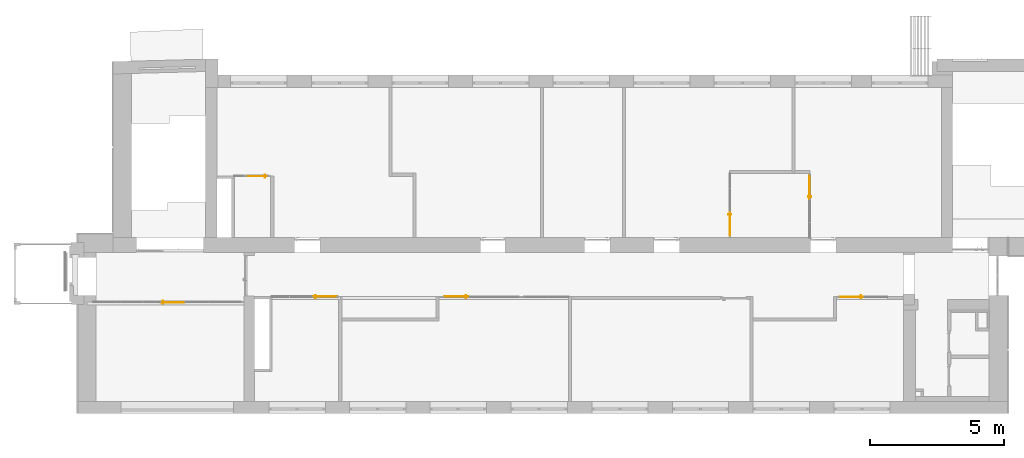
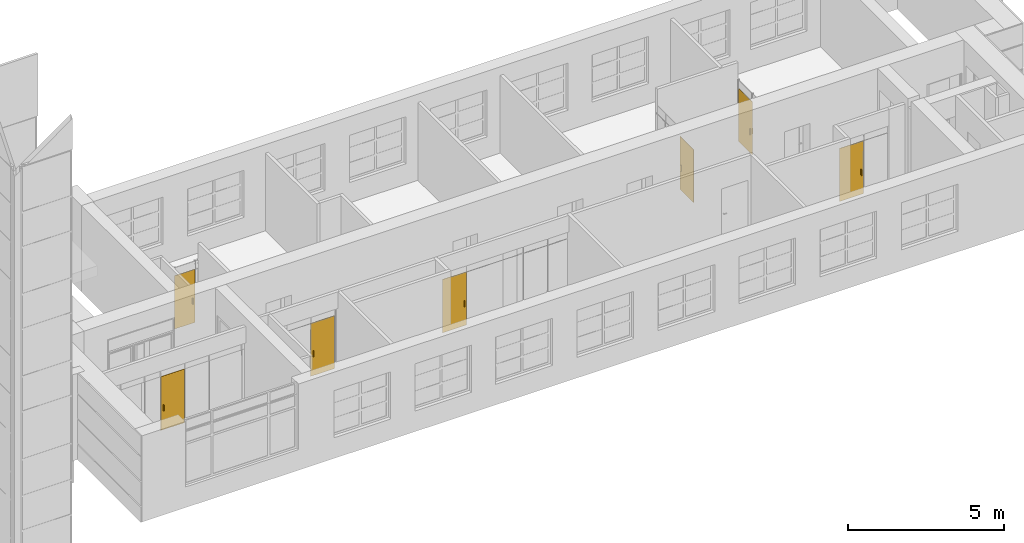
# One storey, part 65 of 66: 7 doors, 7 elements without a shape of their own.
"""IFC2X3 building model written with IfcOpenShell, lengths in millimetres."""

import ifcopenshell
import ifcopenshell.guid

model = None  # the IFC model being written
_history = None  # IfcOwnerHistory: only IFC2X3 demands one
_inside = {}  # id of a spatial element -> (the spatial element, [elements in it])
_under = {}  # id of a project, library or spatial element -> (it, [spatial elements below it])
_declared = {}  # id of a project -> (the project, [libraries it declares])
_typed = {}  # id of a type object -> (the type object, [elements of that type])
_made_of = {}  # id of a material, layer set ... -> (it, [elements and type objects made of it])


def new_model(schema):
    """Start an empty IFC model of exactly this schema.

    Asked for "IFC4X3", IfcOpenShell would pick the latest addendum, in which some entities
    have other attributes; the version numbers below select the first issue.
    IFC2X3 requires an IfcOwnerHistory on every rooted entity: one is made here for all.
    """
    global model, _history
    if schema == "IFC4X3":
        model = ifcopenshell.file(schema_version=(4, 3, 0, 0))
    else:
        model = ifcopenshell.file(schema=schema)
    _inside.clear()
    _under.clear()
    _declared.clear()
    _typed.clear()
    _made_of.clear()
    _history = None
    if model.schema == "IFC2X3":
        org = make("IfcOrganization", Name="unknown")
        user = make(
            "IfcPersonAndOrganization",
            ThePerson=make("IfcPerson", FamilyName="unknown"),
            TheOrganization=org,
        )
        app = make(
            "IfcApplication",
            ApplicationDeveloper=org,
            Version="unknown",
            ApplicationFullName="unknown",
            ApplicationIdentifier="unknown",
        )
        _history = make(
            "IfcOwnerHistory",
            OwningUser=user,
            OwningApplication=app,
            ChangeAction="ADDED",
            CreationDate=0,
        )
    return model


def make(cls, **values):
    """One entity of the class cls with the attributes given. An attribute that is None is left unset."""
    return model.create_entity(
        cls, **{name: value for name, value in values.items() if value is not None}
    )


def entity(cls, *values):
    """Any entity or typed value of the class cls, its attributes in the order of the schema. None: left unset."""
    e = model.create_entity(cls)
    for i, value in enumerate(values):
        if value is not None:
            e[i] = value
    return e


def rooted(cls, **values):
    """An entity with a GlobalId (a new one), such as an element, a storey or a relation."""
    return make(cls, GlobalId=ifcopenshell.guid.new(), OwnerHistory=_history, **values)


def si_unit(unit_type, name, prefix=None):
    """IfcSIUnit, for example si_unit("LENGTHUNIT", "METRE", prefix="MILLI")."""
    return make("IfcSIUnit", UnitType=unit_type, Prefix=prefix, Name=name)


def converted_unit(unit_type, name, factor, base, dimensions=None, offset=None):
    """IfcConversionBasedUnit, such as the inch: factor (a typed value) times the base unit."""
    return make(
        "IfcConversionBasedUnit"
        if offset is None
        else "IfcConversionBasedUnitWithOffset",
        ConversionOffset=offset,
        Dimensions=None
        if dimensions is None
        else entity("IfcDimensionalExponents", *dimensions),
        UnitType=unit_type,
        Name=name,
        ConversionFactor=make(
            "IfcMeasureWithUnit", ValueComponent=factor, UnitComponent=base
        ),
    )


def derived_unit(unit_type, elements):
    """IfcDerivedUnit: a product of units, each with its exponent."""
    return make(
        "IfcDerivedUnit",
        Elements=[
            make("IfcDerivedUnitElement", Unit=unit, Exponent=power)
            for unit, power in elements
        ],
        UnitType=unit_type,
    )


def assignment(units):
    """IfcUnitAssignment: the units of a project."""
    return None if units is None else make("IfcUnitAssignment", Units=units)


def point(xyz):
    """IfcCartesianPoint."""
    return None if xyz is None else make("IfcCartesianPoint", Coordinates=xyz)


def direction(xyz):
    """IfcDirection."""
    return None if xyz is None else make("IfcDirection", DirectionRatios=xyz)


def frame(location, z_axis=None, x_axis=None):
    """IfcAxis2Placement3D, a coordinate frame: its origin and axes. An axis left out is left unset."""
    return make(
        "IfcAxis2Placement3D",
        Location=point(location),
        Axis=direction(z_axis),
        RefDirection=direction(x_axis),
    )


def frame_2d(location, x_axis=None):
    """IfcAxis2Placement2D, a coordinate frame in the plane: its origin and x axis."""
    return make(
        "IfcAxis2Placement2D", Location=point(location), RefDirection=direction(x_axis)
    )


def origin():
    """The frame at (0, 0, 0) with its axes left unset."""
    return frame((0.0, 0.0, 0.0))


def origin_2d_with_axis():
    """The frame at (0, 0) in the plane with the x axis (1, 0) written out."""
    return frame_2d((0.0, 0.0), x_axis=(1.0, 0.0))


def place(relative_to, where):
    """IfcLocalPlacement: puts the frame where relative to a parent placement (None: the world)."""
    return make(
        "IfcLocalPlacement", PlacementRelTo=relative_to, RelativePlacement=where
    )


def context(
    kind, dimensions, precision=None, world=None, true_north=None, identifier=None
):
    """IfcGeometricRepresentationContext, for example the 3D "Model" context."""
    return make(
        "IfcGeometricRepresentationContext",
        ContextIdentifier=identifier,
        ContextType=kind,
        CoordinateSpaceDimension=dimensions,
        Precision=precision,
        WorldCoordinateSystem=world,
        TrueNorth=true_north,
    )


def subcontext(parent, identifier, kind, view, scale=None):
    """IfcGeometricRepresentationSubContext, for example "Body" below "Model"."""
    return make(
        "IfcGeometricRepresentationSubContext",
        ContextIdentifier=identifier,
        ContextType=kind,
        ParentContext=parent,
        TargetScale=scale,
        TargetView=view,
    )


def project(units=None, contexts=None):
    """IfcProject with its units and contexts."""
    return rooted(
        "IfcProject",
        Name="project",
        RepresentationContexts=contexts,
        UnitsInContext=assignment(units),
    )


def spatial(cls, under=None, at=None, **own):
    """A site, building, storey or space (cls), placed at a placement, below another one or the project."""
    s = rooted(cls, ObjectPlacement=at, **own)
    if under is not None:
        _under.setdefault(under.id(), (under, []))[1].append(s)
    return s


def profile(cls, at=None, kind="AREA", **sizes):
    """A parametric profile (cls). Its sizes go by their IFC names, for example OverallWidth=200.0."""
    return make(cls, ProfileType=kind, Position=at, **sizes)


def rectangle(**sizes):
    """IfcRectangleProfileDef."""
    return profile("IfcRectangleProfileDef", **sizes)


def extrude(swept, where, along, depth):
    """IfcExtrudedAreaSolid: the profile swept, set in the frame where, extruded along a direction by depth."""
    return make(
        "IfcExtrudedAreaSolid",
        SweptArea=swept,
        Position=where,
        ExtrudedDirection=direction(along),
        Depth=depth,
    )


def shape(context_of_items, identifier, shape_type, items):
    """IfcShapeRepresentation: the items that make up one representation, for example the "Body"."""
    return make(
        "IfcShapeRepresentation",
        ContextOfItems=context_of_items,
        RepresentationIdentifier=identifier,
        RepresentationType=shape_type,
        Items=items,
    )


def source(mapping_origin, context_of_items, identifier, shape_type, items):
    """IfcRepresentationMap: a shape defined once, which mapped items show again and again."""
    return make(
        "IfcRepresentationMap",
        MappingOrigin=mapping_origin,
        MappedRepresentation=shape(context_of_items, identifier, shape_type, items),
    )


def transform(
    local_origin,
    x_axis=None,
    y_axis=None,
    z_axis=None,
    scale=None,
    scale2=None,
    scale3=None,
    uniform=True,
):
    """IfcCartesianTransformationOperator3D, or its non-uniform kind. x_axis, y_axis, z_axis: its Axis1, 2, 3."""
    if uniform:
        return make(
            "IfcCartesianTransformationOperator3D",
            Axis1=direction(x_axis),
            Axis2=direction(y_axis),
            LocalOrigin=point(local_origin),
            Scale=scale,
            Axis3=direction(z_axis),
        )
    return make(
        "IfcCartesianTransformationOperator3DnonUniform",
        Axis1=direction(x_axis),
        Axis2=direction(y_axis),
        LocalOrigin=point(local_origin),
        Scale=scale,
        Axis3=direction(z_axis),
        Scale2=scale2,
        Scale3=scale3,
    )


def mapped(mapping_source, mapping_target):
    """IfcMappedItem: shows the shape of a source again, moved by a transform."""
    return make(
        "IfcMappedItem", MappingSource=mapping_source, MappingTarget=mapping_target
    )


def material(Name=None, Category=None):
    """IfcMaterial."""
    return make("IfcMaterial", Name=Name, Category=Category)


def material_list(materials):
    """IfcMaterialList."""
    return make("IfcMaterialList", Materials=materials)


def made_of(thing, what):
    """Note that an element or type object is made of a material, layer set ...; save() writes the relation."""
    if what is not None:
        _made_of.setdefault(what.id(), (what, []))[1].append(thing)
    return thing


def type_object(cls, material=None, **own):
    """A type object (cls), such as IfcWallType, which elements share."""
    return made_of(rooted(cls, **own), material)


def type_shapes(of_type, sources):
    """Give a type object the sources (RepresentationMaps) that its elements show as mapped items."""
    of_type.RepresentationMaps = sources


def element(
    cls,
    number,
    at=None,
    inside=None,
    cuts=None,
    type_object=None,
    material=None,
    context=None,
    identifier="Body",
    shape_type=None,
    held_by="IfcProductDefinitionShape",
    body=None,
    shapes=None,
    **own,
):
    """One element of the class cls, such as IfcWall. Its Tag is "e" and its number.

    at: its placement. inside: the storey or other place that contains it. cuts: it is an
    opening in that element (IfcRelVoidsElement). A single representation is given by context,
    identifier, shape_type and body (its items); several are given by shapes. held_by: the class
    of the entity that holds the representations. save() writes the other relations.
    """
    e = rooted(cls, Tag="e%d" % number, ObjectPlacement=at, **own)
    if body is not None:
        shapes = [shape(context, identifier, shape_type, body)]
    if shapes is not None:
        e.Representation = make(held_by, Representations=shapes)
    if inside is not None:
        _inside.setdefault(inside.id(), (inside, []))[1].append(e)
    if cuts is not None:
        rooted(
            "IfcRelVoidsElement", RelatingBuildingElement=cuts, RelatedOpeningElement=e
        )
    if type_object is not None:
        _typed.setdefault(type_object.id(), (type_object, []))[1].append(e)
    return made_of(e, material)


def aggregate(whole, parts):
    """IfcRelAggregates: a whole, such as a stair, and the parts it consists of."""
    return rooted("IfcRelAggregates", RelatingObject=whole, RelatedObjects=parts)


def save(model, path):
    """Write the relations noted so far, then the file.

    IfcRelAggregates (storeys below a building ...), IfcRelContainedInSpatialStructure (elements
    in a storey), IfcRelDefinesByType, IfcRelAssociatesMaterial and IfcRelDeclares: one each for
    every whole, place, type object, material and project.
    """
    for whole, parts in _under.values():
        aggregate(whole, parts)
    for where, things in _inside.values():
        rooted(
            "IfcRelContainedInSpatialStructure",
            RelatedElements=things,
            RelatingStructure=where,
        )
    for kind, things in _typed.values():
        rooted("IfcRelDefinesByType", RelatedObjects=things, RelatingType=kind)
    for what, things in _made_of.values():
        rooted("IfcRelAssociatesMaterial", RelatedObjects=things, RelatingMaterial=what)
    for by, libraries in _declared.values():
        rooted("IfcRelDeclares", RelatingContext=by, RelatedDefinitions=libraries)
    model.write(path)


model = new_model("IFC2X3")

# Units and contexts
model_context = context("Model", 3, precision=0.01, world=origin(), true_north=direction((6.12303176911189e-17, 1.0)))
body_context = subcontext(model_context, "Body", "Model", "MODEL_VIEW")
ifc_project = project(units=[si_unit("LENGTHUNIT", "METRE", prefix="MILLI"), si_unit("AREAUNIT", "SQUARE_METRE"), si_unit("VOLUMEUNIT", "CUBIC_METRE"), converted_unit("PLANEANGLEUNIT", "DEGREE", entity("IfcRatioMeasure", 0.0174532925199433), si_unit("PLANEANGLEUNIT", "RADIAN"), dimensions=[0, 0, 0, 0, 0, 0, 0]), si_unit("MASSUNIT", "GRAM", prefix="KILO"), derived_unit("MASSDENSITYUNIT", [(si_unit("MASSUNIT", "GRAM", prefix="KILO"), 1), (si_unit("LENGTHUNIT", "METRE"), -3)]), si_unit("TIMEUNIT", "SECOND"), si_unit("FREQUENCYUNIT", "HERTZ"), si_unit("THERMODYNAMICTEMPERATUREUNIT", "DEGREE_CELSIUS"), derived_unit("THERMALTRANSMITTANCEUNIT", [(si_unit("MASSUNIT", "GRAM", prefix="KILO"), 1), (si_unit("THERMODYNAMICTEMPERATUREUNIT", "KELVIN"), -1), (si_unit("TIMEUNIT", "SECOND"), -3)]), derived_unit("VOLUMETRICFLOWRATEUNIT", [(si_unit("LENGTHUNIT", "METRE"), 3), (si_unit("TIMEUNIT", "SECOND"), -1)]), si_unit("ELECTRICCURRENTUNIT", "AMPERE"), si_unit("ELECTRICVOLTAGEUNIT", "VOLT"), si_unit("POWERUNIT", "WATT"), si_unit("FORCEUNIT", "NEWTON", prefix="KILO"), si_unit("ILLUMINANCEUNIT", "LUX"), si_unit("LUMINOUSFLUXUNIT", "LUMEN"), si_unit("LUMINOUSINTENSITYUNIT", "CANDELA"), derived_unit("USERDEFINED", [(si_unit("MASSUNIT", "GRAM", prefix="KILO"), -1), (si_unit("LENGTHUNIT", "METRE"), -2), (si_unit("TIMEUNIT", "SECOND"), 3), (si_unit("LUMINOUSFLUXUNIT", "LUMEN"), 1)]), derived_unit("LINEARVELOCITYUNIT", [(si_unit("LENGTHUNIT", "METRE"), 1), (si_unit("TIMEUNIT", "SECOND"), -1)]), si_unit("PRESSUREUNIT", "PASCAL"), derived_unit("USERDEFINED", [(si_unit("LENGTHUNIT", "METRE"), -2), (si_unit("MASSUNIT", "GRAM", prefix="KILO"), 1), (si_unit("TIMEUNIT", "SECOND"), -2)])], contexts=[model_context])

# Site, building, storey
site_placement = place(None, frame((-151.875543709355, 2715.0, 0.0)))
site = spatial("IfcSite", under=ifc_project, at=site_placement, Name="Surface", CompositionType="ELEMENT")
building_placement = place(site_placement, origin())
building = spatial("IfcBuilding", under=site, at=building_placement, CompositionType="ELEMENT")
storey_placement = place(building_placement, frame((0.0, 0.0, 3350.0)))
storey = spatial("IfcBuildingStorey", under=building, at=storey_placement, Name="2 korrus", CompositionType="ELEMENT", Elevation=3350.00000000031)

# Curtain wall, door
curtain_wall_type_1 = type_object("IfcCurtainWallType", Name="Curtain Wall:Klaassein KLS-07", PredefinedType="NOTDEFINED")
curtain_wall_1_placement = place(storey_placement, frame((0.0, 0.0, -3350.0)))
curtain_wall_1 = element("IfcCurtainWall", 1, at=curtain_wall_1_placement, inside=storey, type_object=curtain_wall_type_1, Name="Curtain Wall:Klaassein KLS-07", ObjectType="Curtain Wall:Klaassein KLS-07")
ifc_material_1 = material(Name="Glass")
ifc_material_2 = material(Name="Aluminum")
ifc_material_list_1 = material_list([ifc_material_1, ifc_material_2])
ifc_material_list_2 = material_list([ifc_material_1, ifc_material_2])
door_style_1 = type_object("IfcDoorStyle", Name="Klaasuks", ConstructionType="NOTDEFINED", OperationType="NOTDEFINED", ParameterTakesPrecedence=False, Sizeable=False, material=ifc_material_list_2)
shared_shape_1 = source(origin(), body_context, "Body", "SweptSolid", [
    extrude(rectangle(XDim=880.0, YDim=12.7000000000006, at=origin_2d_with_axis()), frame((0.0, -6.34999999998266, 0.0), z_axis=(0.0, 0.0, 1.0), x_axis=(-1.0, 0.0, 0.0)), (0.0, 0.0, 1.0), 2110.0),
    extrude(rectangle(XDim=50.8, YDim=25.3999999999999, at=origin_2d_with_axis()), frame((-351.1, -38.099999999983, 762.0), z_axis=(0.0, 0.0, 1.0), x_axis=(0.0, 1.0, 0.0)), (0.0, 0.0, 1.0), 228.6),
    extrude(rectangle(XDim=50.8, YDim=25.3999999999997, at=frame_2d((0.0, 3.37507799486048e-14), x_axis=(1.0, 0.0))), frame((-351.1, 25.4000000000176, 762.0), z_axis=(0.0, 0.0, 1.0), x_axis=(0.0, -1.0, 0.0)), (0.0, 0.0, 1.0), 228.6),
])
type_shapes(door_style_1, [shared_shape_1])
door_1_placement = place(curtain_wall_1_placement, frame((3299.87554580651, 4150.48849455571, 3350.0)))
door_1 = element("IfcDoor", 2, at=door_1_placement, type_object=door_style_1, material=ifc_material_list_1, Name="Door-Curtain-Wall-Single-Glass:Klaasuks", ObjectType="Klaasuks", OverallHeight=2110.0, OverallWidth=880.000000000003, context=body_context, shape_type="MappedRepresentation", body=[
    mapped(shared_shape_1, transform((0.0, 0.0, 0.0), scale=1.0)),
])
aggregate(curtain_wall_1, [door_1])

curtain_wall_type_2 = type_object("IfcCurtainWallType", Name="Curtain Wall:Klaassein KLS-11", PredefinedType="NOTDEFINED")
curtain_wall_2_placement = place(storey_placement, frame((0.0, 0.0, -3350.0)))
curtain_wall_2 = element("IfcCurtainWall", 3, at=curtain_wall_2_placement, inside=storey, type_object=curtain_wall_type_2, Name="Curtain Wall:Klaassein KLS-11", ObjectType="Curtain Wall:Klaassein KLS-11")
ifc_material_list_3 = material_list([ifc_material_1, ifc_material_2])
ifc_material_list_4 = material_list([ifc_material_1, ifc_material_2])
door_style_2 = type_object("IfcDoorStyle", Name="Klaasuks", ConstructionType="NOTDEFINED", OperationType="NOTDEFINED", ParameterTakesPrecedence=False, Sizeable=False, material=ifc_material_list_4)
shared_shape_2 = source(origin(), body_context, "Body", "SweptSolid", [
    extrude(rectangle(XDim=888.452432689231, YDim=12.7000000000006, at=origin_2d_with_axis()), frame((0.0, -6.34999999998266, 0.0), z_axis=(0.0, 0.0, 1.0), x_axis=(-1.0, 0.0, 0.0)), (0.0, 0.0, 1.0), 2080.0),
    extrude(rectangle(XDim=50.8, YDim=25.3999999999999, at=origin_2d_with_axis()), frame((-355.326216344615, -38.099999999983, 762.0), z_axis=(0.0, 0.0, 1.0), x_axis=(0.0, 1.0, 0.0)), (0.0, 0.0, 1.0), 228.6),
    extrude(rectangle(XDim=50.8, YDim=25.3999999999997, at=frame_2d((0.0, 3.37507799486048e-14), x_axis=(1.0, 0.0))), frame((-355.326216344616, 25.4000000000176, 762.0), z_axis=(0.0, 0.0, 1.0), x_axis=(0.0, -1.0, 0.0)), (0.0, 0.0, 1.0), 228.6),
])
type_shapes(door_style_2, [shared_shape_2])
door_2_placement = place(curtain_wall_2_placement, frame((28609.7909427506, 4345.04493399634, 3350.0), z_axis=(0.0, 0.0, 1.0), x_axis=(-1.0, 0.0, 0.0)))
door_2 = element("IfcDoor", 4, at=door_2_placement, type_object=door_style_2, material=ifc_material_list_3, Name="Door-Curtain-Wall-Single-Glass:Klaasuks", ObjectType="Klaasuks", OverallHeight=2080.0, OverallWidth=888.452432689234, context=body_context, shape_type="MappedRepresentation", body=[
    mapped(shared_shape_2, transform((0.0, 0.0, 0.0), scale=1.0)),
])
aggregate(curtain_wall_2, [door_2])

curtain_wall_type_3 = type_object("IfcCurtainWallType", Name="Curtain Wall:Klaassein KLS-09", PredefinedType="NOTDEFINED")
curtain_wall_3_placement = place(storey_placement, frame((0.0, 0.0, -3350.0)))
curtain_wall_3 = element("IfcCurtainWall", 5, at=curtain_wall_3_placement, inside=storey, type_object=curtain_wall_type_3, Name="Curtain Wall:Klaassein KLS-09", ObjectType="Curtain Wall:Klaassein KLS-09")
ifc_material_list_5 = material_list([ifc_material_1, ifc_material_2])
ifc_material_list_6 = material_list([ifc_material_1, ifc_material_2])
door_style_3 = type_object("IfcDoorStyle", Name="Klaasuks", ConstructionType="NOTDEFINED", OperationType="NOTDEFINED", ParameterTakesPrecedence=False, Sizeable=False, material=ifc_material_list_6)
shared_shape_3 = source(origin(), body_context, "Body", "SweptSolid", [
    extrude(rectangle(XDim=889.999999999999, YDim=12.7000000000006, at=origin_2d_with_axis()), frame((0.0, -6.34999999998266, 0.0), z_axis=(0.0, 0.0, 1.0), x_axis=(-1.0, 0.0, 0.0)), (0.0, 0.0, 1.0), 2090.0),
    extrude(rectangle(XDim=50.8, YDim=25.3999999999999, at=origin_2d_with_axis()), frame((-356.099999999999, -38.099999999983, 762.0), z_axis=(0.0, 0.0, 1.0), x_axis=(0.0, 1.0, 0.0)), (0.0, 0.0, 1.0), 228.6),
    extrude(rectangle(XDim=50.8, YDim=25.3999999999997, at=frame_2d((0.0, 3.37507799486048e-14), x_axis=(1.0, 0.0))), frame((-356.099999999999, 25.4000000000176, 762.0), z_axis=(0.0, 0.0, 1.0), x_axis=(0.0, -1.0, 0.0)), (0.0, 0.0, 1.0), 228.6),
])
type_shapes(door_style_3, [shared_shape_3])
door_3_placement = place(curtain_wall_3_placement, frame((13883.5552877, 4352.04493399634, 3350.0), z_axis=(0.0, 0.0, 1.0), x_axis=(-1.0, 0.0, 0.0)))
door_3 = element("IfcDoor", 6, at=door_3_placement, type_object=door_style_3, material=ifc_material_list_5, Name="Door-Curtain-Wall-Single-Glass:Klaasuks", ObjectType="Klaasuks", OverallHeight=2090.0, OverallWidth=890.000000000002, context=body_context, shape_type="MappedRepresentation", body=[
    mapped(shared_shape_3, transform((0.0, 0.0, 0.0), scale=1.0)),
])
aggregate(curtain_wall_3, [door_3])

curtain_wall_type_4 = type_object("IfcCurtainWallType", Name="Curtain Wall:Klaassein KLS-08", PredefinedType="NOTDEFINED")
curtain_wall_4_placement = place(storey_placement, frame((0.0, 0.0, -3350.0)))
curtain_wall_4 = element("IfcCurtainWall", 7, at=curtain_wall_4_placement, inside=storey, type_object=curtain_wall_type_4, Name="Curtain Wall:Klaassein KLS-08", ObjectType="Curtain Wall:Klaassein KLS-08")
ifc_material_list_7 = material_list([ifc_material_1, ifc_material_2])
ifc_material_list_8 = material_list([ifc_material_1, ifc_material_2])
door_style_4 = type_object("IfcDoorStyle", Name="Klaasuks", ConstructionType="NOTDEFINED", OperationType="NOTDEFINED", ParameterTakesPrecedence=False, Sizeable=False, material=ifc_material_list_8)
shared_shape_4 = source(origin(), body_context, "Body", "SweptSolid", [
    extrude(rectangle(XDim=12.7000000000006, YDim=879.999999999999, at=origin_2d_with_axis()), frame((0.0, 6.34999999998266, 0.0), z_axis=(0.0, 0.0, 1.0), x_axis=(0.0, 1.0, 0.0)), (0.0, 0.0, 1.0), 2080.0),
    extrude(rectangle(XDim=25.3999999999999, YDim=50.8, at=frame_2d((0.0, -3.5527136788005e-15), x_axis=(1.0, 0.0))), frame((-351.099999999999, 38.099999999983, 762.0), z_axis=(0.0, 0.0, 1.0), x_axis=(-1.0, 0.0, 0.0)), (0.0, 0.0, 1.0), 228.6),
    extrude(rectangle(XDim=25.3999999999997, YDim=50.8, at=frame_2d((3.37507799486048e-14, -1.77635683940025e-15), x_axis=(1.0, 0.0))), frame((-351.1, -25.4000000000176, 762.0)), (0.0, 0.0, 1.0), 228.6),
])
type_shapes(door_style_4, [shared_shape_4])
door_4_placement = place(curtain_wall_4_placement, frame((8989.56472640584, 4355.04493399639, 3350.0)))
door_4 = element("IfcDoor", 8, at=door_4_placement, type_object=door_style_4, material=ifc_material_list_7, Name="Door-Curtain-Wall-Single-Glass:Klaasuks", ObjectType="Klaasuks", OverallHeight=2080.0, OverallWidth=880.000000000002, context=body_context, shape_type="MappedRepresentation", body=[
    mapped(shared_shape_4, transform((0.0, 0.0, 0.0), scale=1.0)),
])
aggregate(curtain_wall_4, [door_4])

curtain_wall_type_5 = type_object("IfcCurtainWallType", Name="Curtain Wall:Klaassein KLS-05", PredefinedType="NOTDEFINED")
curtain_wall_5_placement = place(storey_placement, frame((0.0, 0.0, -3350.0)))
curtain_wall_5 = element("IfcCurtainWall", 9, at=curtain_wall_5_placement, inside=storey, type_object=curtain_wall_type_5, Name="Curtain Wall:Klaassein KLS-05", ObjectType="Curtain Wall:Klaassein KLS-05")
ifc_material_list_9 = material_list([ifc_material_1, ifc_material_2])
door_5_placement = place(curtain_wall_5_placement, frame((27053.2859998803, 8434.0, 3350.0), z_axis=(0.0, 0.0, 1.0), x_axis=(0.0, 1.0, 0.0)))
door_5 = element("IfcDoor", 10, at=door_5_placement, type_object=door_style_4, material=ifc_material_list_9, Name="Door-Curtain-Wall-Single-Glass:Klaasuks", ObjectType="Klaasuks", OverallHeight=2080.0, OverallWidth=880.000000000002, context=body_context, shape_type="MappedRepresentation", body=[
    mapped(shared_shape_4, transform((0.0, 0.0, 0.0), scale=1.0)),
])
aggregate(curtain_wall_5, [door_5])

curtain_wall_6_placement = place(storey_placement, frame((0.0, 0.0, -3350.0)))
curtain_wall_6 = element("IfcCurtainWall", 11, at=curtain_wall_6_placement, inside=storey, type_object=curtain_wall_type_5, Name="Curtain Wall:Klaassein KLS-05", ObjectType="Curtain Wall:Klaassein KLS-05")
ifc_material_list_10 = material_list([ifc_material_1, ifc_material_2])
door_6_placement = place(curtain_wall_6_placement, frame((24073.28599988, 7070.0, 3350.0), z_axis=(0.0, 0.0, 1.0), x_axis=(0.0, -1.0, 0.0)))
door_6 = element("IfcDoor", 12, at=door_6_placement, type_object=door_style_4, material=ifc_material_list_10, Name="Door-Curtain-Wall-Single-Glass:Klaasuks", ObjectType="Klaasuks", OverallHeight=2080.0, OverallWidth=880.000000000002, context=body_context, shape_type="MappedRepresentation", body=[
    mapped(shared_shape_4, transform((0.0, 0.0, 0.0), scale=1.0)),
])
aggregate(curtain_wall_6, [door_6])

curtain_wall_type_6 = type_object("IfcCurtainWallType", Name="Curtain Wall:Klaassein KLS-10", PredefinedType="NOTDEFINED")
curtain_wall_7_placement = place(storey_placement, frame((0.0, 0.0, -3350.0)))
curtain_wall_7 = element("IfcCurtainWall", 13, at=curtain_wall_7_placement, inside=storey, type_object=curtain_wall_type_6, Name="Curtain Wall:Klaassein KLS-10", ObjectType="Curtain Wall:Klaassein KLS-10")
ifc_material_list_11 = material_list([ifc_material_1, ifc_material_2])
ifc_material_list_12 = material_list([ifc_material_1, ifc_material_2])
door_style_5 = type_object("IfcDoorStyle", Name="Klaasuks", ConstructionType="NOTDEFINED", OperationType="NOTDEFINED", ParameterTakesPrecedence=False, Sizeable=False, material=ifc_material_list_12)
shared_shape_5 = source(origin(), body_context, "Body", "SweptSolid", [
    extrude(rectangle(XDim=12.7000000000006, YDim=756.990561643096, at=origin_2d_with_axis()), frame((0.0, 6.34999999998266, 0.0), z_axis=(0.0, 0.0, 1.0), x_axis=(0.0, 1.0, 0.0)), (0.0, 0.0, 1.0), 2090.0),
    extrude(rectangle(XDim=25.3999999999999, YDim=50.8, at=frame_2d((0.0, -3.5527136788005e-15), x_axis=(1.0, 0.0))), frame((-289.595280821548, 38.099999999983, 762.0), z_axis=(0.0, 0.0, 1.0), x_axis=(-1.0, 0.0, 0.0)), (0.0, 0.0, 1.0), 228.6),
    extrude(rectangle(XDim=25.3999999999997, YDim=50.8, at=frame_2d((0.0, -1.77635683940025e-15), x_axis=(1.0, 0.0))), frame((-289.595280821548, -25.4000000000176, 762.0)), (0.0, 0.0, 1.0), 228.6),
])
type_shapes(door_style_5, [shared_shape_5])
door_7_placement = place(curtain_wall_7_placement, frame((6464.31975398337, 8850.0, 3350.0), z_axis=(0.0, 0.0, 1.0), x_axis=(-1.0, 0.0, 0.0)))
door_7 = element("IfcDoor", 14, at=door_7_placement, type_object=door_style_5, material=ifc_material_list_11, Name="Door-Curtain-Wall-Single-Glass:Klaasuks", ObjectType="Klaasuks", OverallHeight=2090.0, OverallWidth=756.990561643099, context=body_context, shape_type="MappedRepresentation", body=[
    mapped(shared_shape_5, transform((0.0, 0.0, 0.0), scale=1.0)),
])
aggregate(curtain_wall_7, [door_7])

save(model, "model.ifc")
